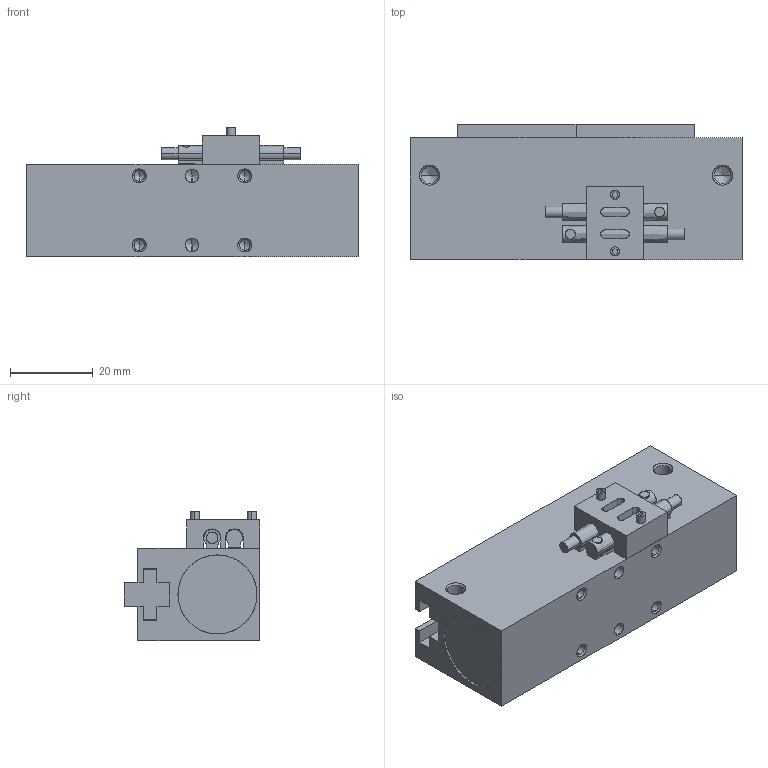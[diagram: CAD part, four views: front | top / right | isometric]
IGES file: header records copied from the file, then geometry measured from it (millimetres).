
Start section: SolidWorks IGES file using analytic representation for surfaces
Global section: file name: C:\Users\jmkuhnes\Pictures\PERSONAL\AGLP-3\AGLP-3 CLOSED in MM.IGS; native system: SolidWorks 2013; preprocessor: SolidWorks 2013; author: jmkuhnes; date: 141031.124325; units: millimetre
Bounding box: 80.01 x 32.59 x 31.11 mm (x, y, z)
Surface area: 17614.9 mm2 (no closed solid volume)
Topology: 0 solids, 0 shells, 252 faces, 2668 edges, 2632 vertices
Faces by surface type: revolution 144, bspline 108
